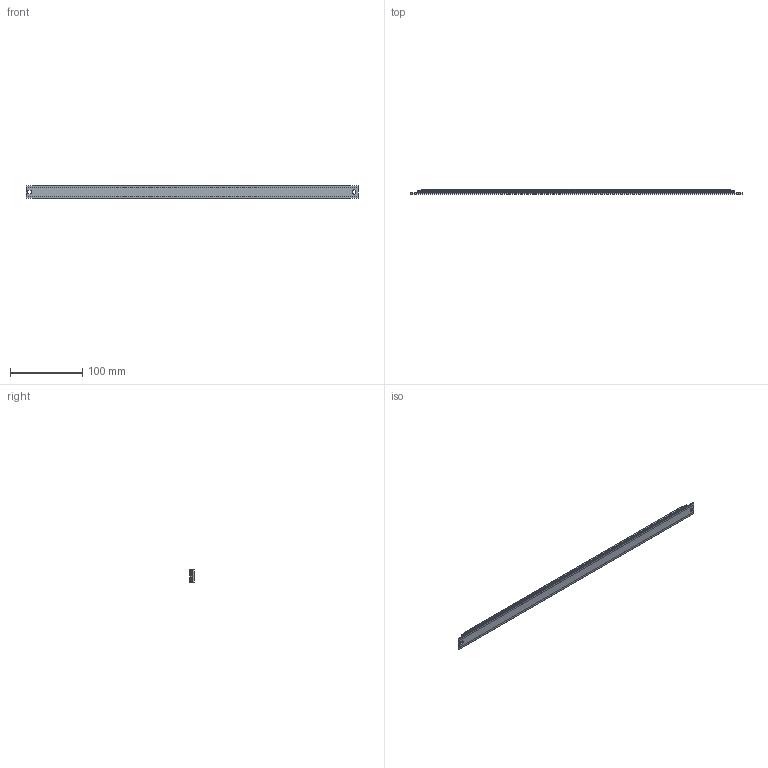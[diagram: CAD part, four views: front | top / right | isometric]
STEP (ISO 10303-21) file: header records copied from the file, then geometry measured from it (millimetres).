
FILE_DESCRIPTION (( 'STEP AP214' ), '1' );
FILE_NAME ('HLMScale.ScaleLength460.STEP', '2023-02-07T05:55:41', ( '' ), ( '' ), 'SwSTEP 2.0', 'SolidWorks 2020', '' );
FILE_SCHEMA (( 'AUTOMOTIVE_DESIGN' ));
Length unit declared in the file: millimetre
Products named in the file (1): HLMScale.ScaleLength460
Bounding box: 460 x 6.08 x 18 mm (x, y, z)
Volume: 45293.3 mm3; surface area: 25273.5 mm2
Topology: 1 solids, 1 shells, 56 faces, 149 edges, 98 vertices
Faces by surface type: plane 31, cylinder 25
Entity records: 1857 total; most frequent: CARTESIAN_POINT 412, ORIENTED_EDGE 298, DIRECTION 285, EDGE_CURVE 149, VECTOR 103, LINE 103, VERTEX_POINT 98, AXIS2_PLACEMENT_3D 91
